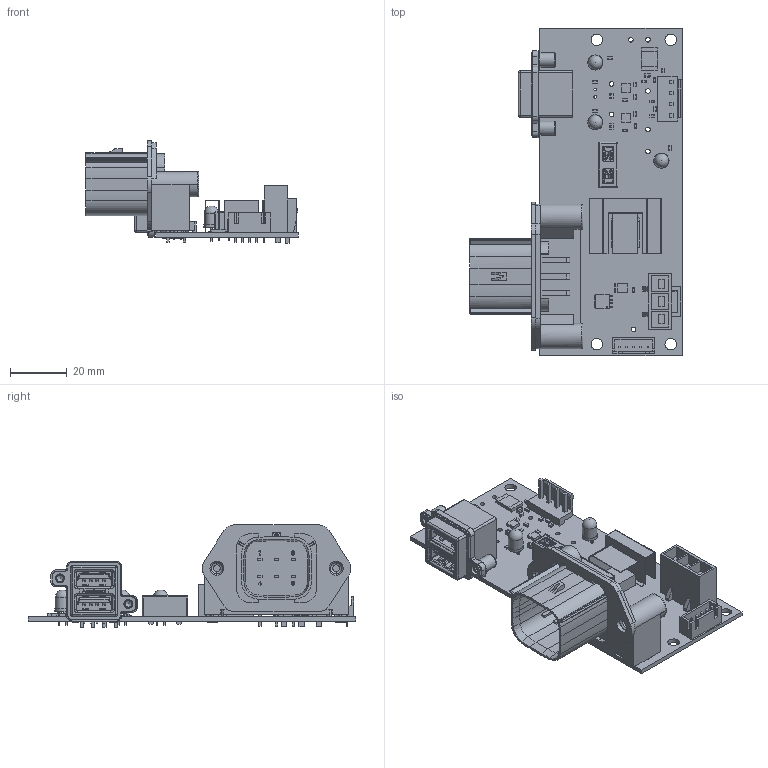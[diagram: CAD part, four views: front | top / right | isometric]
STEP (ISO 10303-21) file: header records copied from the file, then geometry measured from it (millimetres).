
FILE_DESCRIPTION(('Open CASCADE Model'),'2;1');
FILE_NAME('Open CASCADE Shape Model','2025-07-31T15:12:01',('Author'),( 'Open CASCADE'),'Open CASCADE STEP processor 7.5','Open CASCADE 7.5' ,'Unknown');
FILE_SCHEMA(('AUTOMOTIVE_DESIGN { 1 0 10303 214 1 1 1 1 }'));
Length unit declared in the file: millimetre
Products named in the file (120): Open CASCADE STEP translator 7.5 1508; Open CASCADE STEP translator 7.5 1509; Open CASCADE STEP translator 7.5 1510; Open CASCADE STEP translator 7.5 1511; Open CASCADE STEP translator 7.5 1512; Open CASCADE STEP translator 7.5 1513; Open CASCADE STEP translator 7.5 1514; Open CASCADE STEP translator 7.5 1515; Open CASCADE STEP translator 7.5 1516; Open CASCADE STEP translator 7.5 1517; Open CASCADE STEP translator 7.5 1518; Open CASCADE STEP translator 7.5 1519; Open CASCADE STEP translator 7.5 1520; Open CASCADE STEP translator 7.5 1521; Open CASCADE STEP translator 7.5 1522; Open CASCADE STEP translator 7.5 1523; Open CASCADE STEP translator 7.5 1524; Open CASCADE STEP translator 7.5 1525; Open CASCADE STEP translator 7.5 1526; Open CASCADE STEP translator 7.5 1527; Open CASCADE STEP translator 7.5 1528; Open CASCADE STEP translator 7.5 1529; Open CASCADE STEP translator 7.5 1530; Open CASCADE STEP translator 7.5 1531; Open CASCADE STEP translator 7.5 1532; Open CASCADE STEP translator 7.5 1533; Open CASCADE STEP translator 7.5 1534; Open CASCADE STEP translator 7.5 1535; Open CASCADE STEP translator 7.5 1536; Open CASCADE STEP translator 7.5 1537; Open CASCADE STEP translator 7.5 1538; Open CASCADE STEP translator 7.5 1539; Open CASCADE STEP translator 7.5 1540; Open CASCADE STEP translator 7.5 1541; Open CASCADE STEP translator 7.5 1542; Open CASCADE STEP translator 7.5 1543; Open CASCADE STEP translator 7.5 1544; Open CASCADE STEP translator 7.5 1545; Open CASCADE STEP translator 7.5 1546; Open CASCADE STEP translator 7.5 1547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
Bounding box: 74.55 x 115 x 35.95 mm (x, y, z)
Volume: 31249.9 mm3; surface area: 39638.3 mm2
Topology: 125 solids, 125 shells, 2694 faces, 6857 edges, 4478 vertices
Faces by surface type: plane 1982, cylinder 523, bspline 72, sphere 47, cone 40, torus 14, revolution 8, extrusion 8
Full cylindrical faces by diameter (mm): 0.5 x1, 0.92 x13, 1.016 x8, 1.52 x6, 1.6 x16, 2.1 x3, 2.261 x2, 2.3 x2, 3.2 x2, 4 x4, 4.78 x2, 5 x2, 5.08 x3, 5.334 x3
Entity records: 87637 total; most frequent: CARTESIAN_POINT 18626, ORIENTED_EDGE 13580, DIRECTION 12772, EDGE_CURVE 6790, VECTOR 5374, LINE 5366, VERTEX_POINT 4443, AXIS2_PLACEMENT_3D 3695
